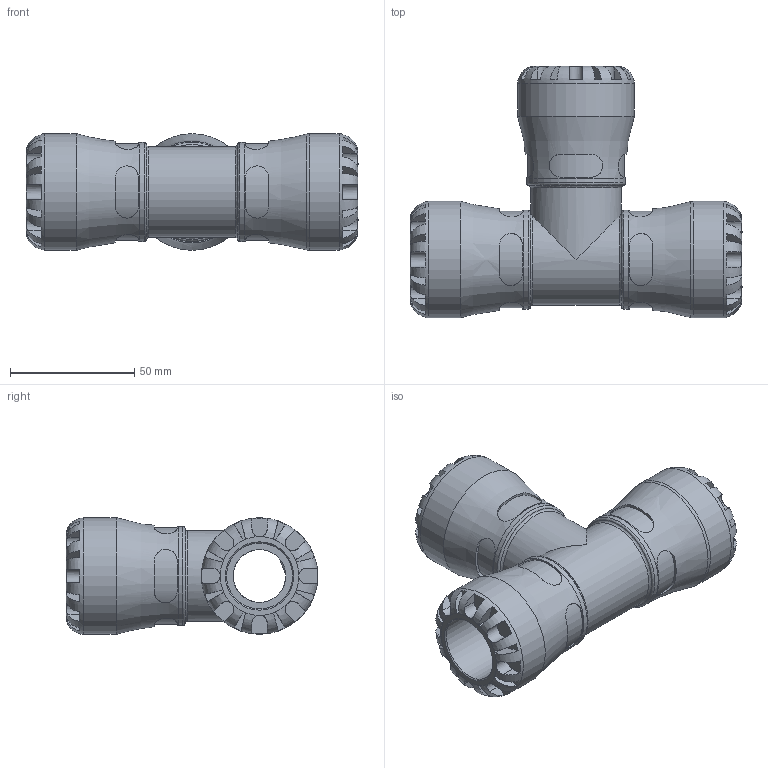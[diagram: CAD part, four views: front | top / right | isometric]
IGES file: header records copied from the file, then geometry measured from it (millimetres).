
Global section: file name: 1004A6007.ipt; native system: Autodesk Inventor 2019; preprocessor: unknown; author: KIM; date: 20210902.120258; units: inch
Bounding box: 133.86 x 101.47 x 46.99 mm (x, y, z)
Volume: 163111.4 mm3; surface area: 47405 mm2
Topology: 1 solids, 1 shells, 288 faces, 757 edges, 483 vertices
Faces by surface type: plane 176, revolution 68, cylinder 44
Full cylindrical faces by diameter (mm): 36.652 x1, 39.941 x3, 46.99 x3
